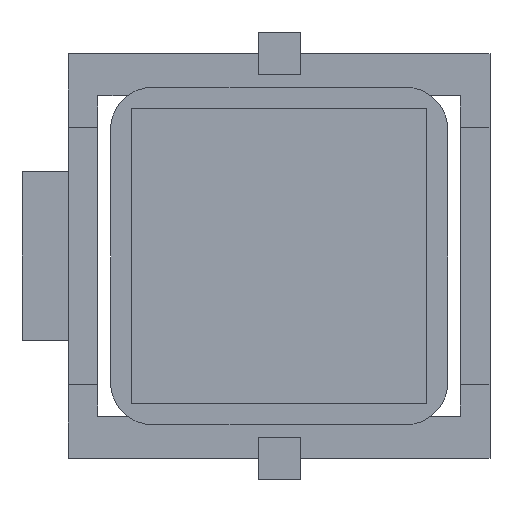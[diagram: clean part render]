
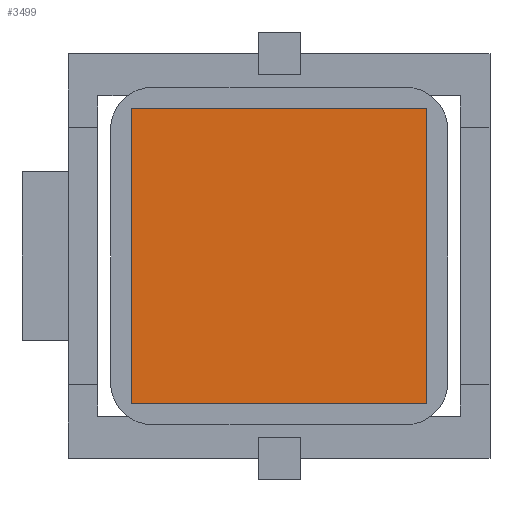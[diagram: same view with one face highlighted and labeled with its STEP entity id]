
A CAD part, front view. The second image highlights one B-rep face of the part: STEP entity #3499.
In plain terms, the highlighted planar face has unit normal (0, -1, 0).
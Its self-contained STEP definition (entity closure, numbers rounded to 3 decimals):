
#129 = DIRECTION ( 'NONE',  ( 0., 0., -1. ) ) ;
#201 = LINE ( 'NONE', #496, #1993 ) ;
#210 = CARTESIAN_POINT ( 'NONE',  ( -2.913, -13.936, 14.225 ) ) ;
#371 = VECTOR ( 'NONE', #1334, 1000. ) ;
#468 = DIRECTION ( 'NONE',  ( 0., 0., 1. ) ) ;
#496 = CARTESIAN_POINT ( 'NONE',  ( -2.913, -13.936, 0.225 ) ) ;
#516 = DIRECTION ( 'NONE',  ( 0., 1., 0. ) ) ;
#807 = CARTESIAN_POINT ( 'NONE',  ( -2.913, -13.936, 0.225 ) ) ;
#1056 = CARTESIAN_POINT ( 'NONE',  ( -2.913, -13.936, 0.225 ) ) ;
#1065 = VERTEX_POINT ( 'NONE', #2979 ) ;
#1128 = CARTESIAN_POINT ( 'NONE',  ( -2.913, -13.936, 14.225 ) ) ;
#1141 = PLANE ( 'NONE',  #3634 ) ;
#1185 = LINE ( 'NONE', #1056, #371 ) ;
#1334 = DIRECTION ( 'NONE',  ( -1., 0., 0. ) ) ;
#1552 = ORIENTED_EDGE ( 'NONE', *, *, #3523, .F. ) ;
#1618 = ORIENTED_EDGE ( 'NONE', *, *, #2043, .F. ) ;
#1862 = EDGE_CURVE ( 'NONE', #2506, #2106, #1185, .T. ) ;
#1876 = LINE ( 'NONE', #3231, #2234 ) ;
#1977 = CARTESIAN_POINT ( 'NONE',  ( 11.087, -13.936, 0.225 ) ) ;
#1993 = VECTOR ( 'NONE', #4415, 1000. ) ;
#2043 = EDGE_CURVE ( 'NONE', #2106, #2615, #201, .T. ) ;
#2106 = VERTEX_POINT ( 'NONE', #4553 ) ;
#2148 = VECTOR ( 'NONE', #4110, 1000. ) ;
#2234 = VECTOR ( 'NONE', #129, 1000. ) ;
#2382 = LINE ( 'NONE', #210, #2148 ) ;
#2463 = EDGE_CURVE ( 'NONE', #2615, #1065, #2382, .T. ) ;
#2506 = VERTEX_POINT ( 'NONE', #1977 ) ;
#2593 = ORIENTED_EDGE ( 'NONE', *, *, #2463, .F. ) ;
#2615 = VERTEX_POINT ( 'NONE', #1128 ) ;
#2867 = ORIENTED_EDGE ( 'NONE', *, *, #1862, .F. ) ;
#2979 = CARTESIAN_POINT ( 'NONE',  ( 11.087, -13.936, 14.225 ) ) ;
#3231 = CARTESIAN_POINT ( 'NONE',  ( 11.087, -13.936, 0.225 ) ) ;
#3282 = FACE_OUTER_BOUND ( 'NONE', #3711, .T. ) ;
#3499 = ADVANCED_FACE ( 'NONE', ( #3282 ), #1141, .F. ) ;
#3523 = EDGE_CURVE ( 'NONE', #1065, #2506, #1876, .T. ) ;
#3634 = AXIS2_PLACEMENT_3D ( 'NONE', #807, #516, #468 ) ;
#3711 = EDGE_LOOP ( 'NONE', ( #1618, #2867, #1552, #2593 ) ) ;
#4110 = DIRECTION ( 'NONE',  ( 1., 0., 0. ) ) ;
#4415 = DIRECTION ( 'NONE',  ( 0., 0., 1. ) ) ;
#4553 = CARTESIAN_POINT ( 'NONE',  ( -2.913, -13.936, 0.225 ) ) ;
